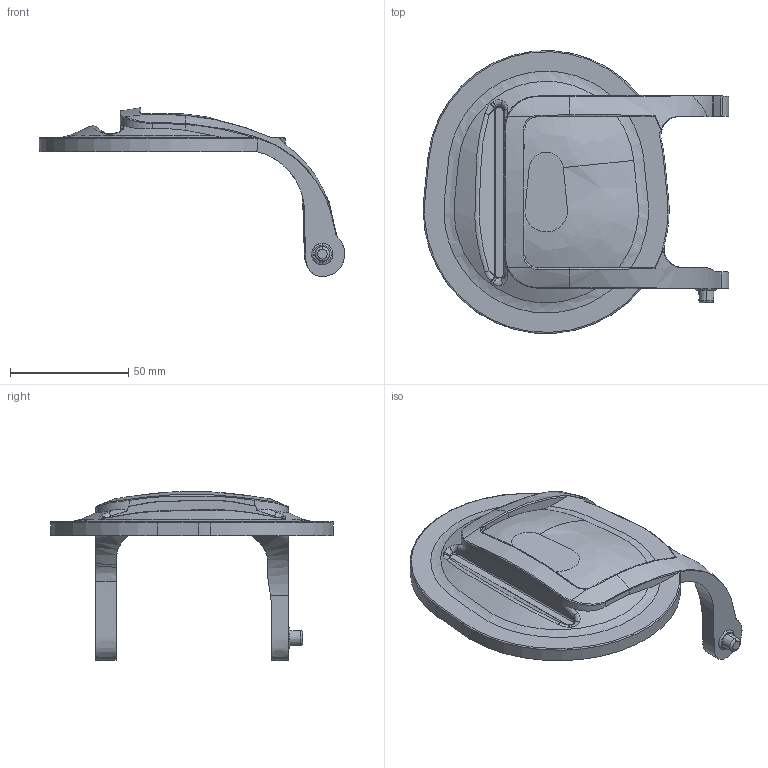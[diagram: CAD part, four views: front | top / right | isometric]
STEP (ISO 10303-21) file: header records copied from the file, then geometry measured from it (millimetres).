
FILE_DESCRIPTION (( 'STEP AP214' ), '1' );
FILE_NAME ('P-00101 - Valve Door - v2.2.7_Default Configuration.STEP', '2026-06-12T21:52:12', ( '' ), ( '' ), 'SwSTEP 2.0', 'SolidWorks 2023', '' );
FILE_SCHEMA (( 'AUTOMOTIVE_DESIGN' ));
Length unit declared in the file: inch
Products named in the file (1): P-00101 - Valve Door - v2.2.7_Default Configuration
Bounding box: 129.19 x 119.55 x 71.46 mm (x, y, z)
Volume: 60718.4 mm3; surface area: 39996.2 mm2
Topology: 1 solids, 1 shells, 386 faces, 1002 edges, 649 vertices
Faces by surface type: bspline 169, plane 154, cone 31, torus 17, cylinder 12, sphere 3
Entity records: 31737 total; most frequent: CARTESIAN_POINT 23882, ORIENTED_EDGE 1996, EDGE_CURVE 998, DIRECTION 997, VERTEX_POINT 649, B_SPLINE_CURVE_WITH_KNOTS 524, EDGE_LOOP 423, ADVANCED_FACE 386
